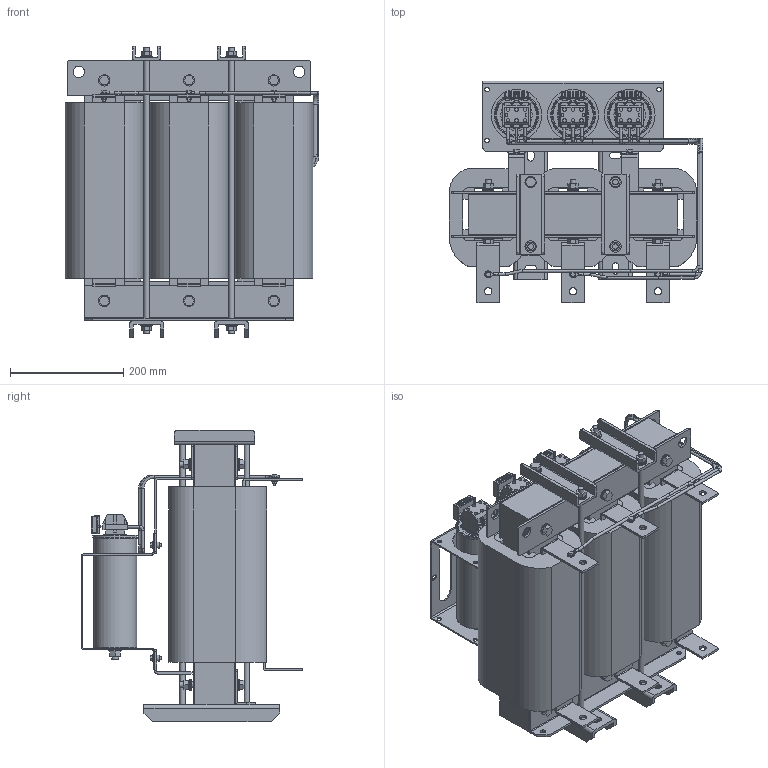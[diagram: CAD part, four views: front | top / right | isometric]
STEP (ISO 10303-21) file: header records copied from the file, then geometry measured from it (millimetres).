
FILE_DESCRIPTION (( 'STEP AP203' ), '1' );
FILE_NAME ('蔓躅漤铋 耔眢耥 翳朦蝠 _ ISINOF-132_262-4.STEP', '2026-07-20T12:01:45', ( '' ), ( '' ), 'SwSTEP 2.0', 'SolidWorks 2021', '' );
FILE_SCHEMA (( 'CONFIG_CONTROL_DESIGN' ));
Length unit declared in the file: millimetre
Products named in the file (1): 蔓躅漤铋 耔眢耥 翳朦蝠 _ ISINOF-132_262-4
Bounding box: 448.45 x 392 x 514.91 mm (x, y, z)
Surface area: 3148549 mm2 (no closed solid volume)
Topology: 0 solids, 180 shells, 2302 faces, 5773 edges, 3833 vertices
Faces by surface type: plane 1579, cylinder 625, bspline 54, torus 38, cone 6
Full cylindrical faces by diameter (mm): 2.5 x1, 4.8 x3, 5 x49, 6 x12, 6.3 x36, 6.4 x3, 7 x3, 7.482 x2, 8 x8, 9 x2, 9.6 x6, 10 x12, 11 x4, 12 x7, 13 x9, 15.588 x13, 20 x35, 24 x3, 73 x3, 76 x3, 79 x3, 90 x3
Entity records: 72801 total; most frequent: CARTESIAN_POINT 18796, ORIENTED_EDGE 10882, DIRECTION 10671, EDGE_CURVE 5450, LINE 3991, VECTOR 3991, VERTEX_POINT 3783, AXIS2_PLACEMENT_3D 3340
